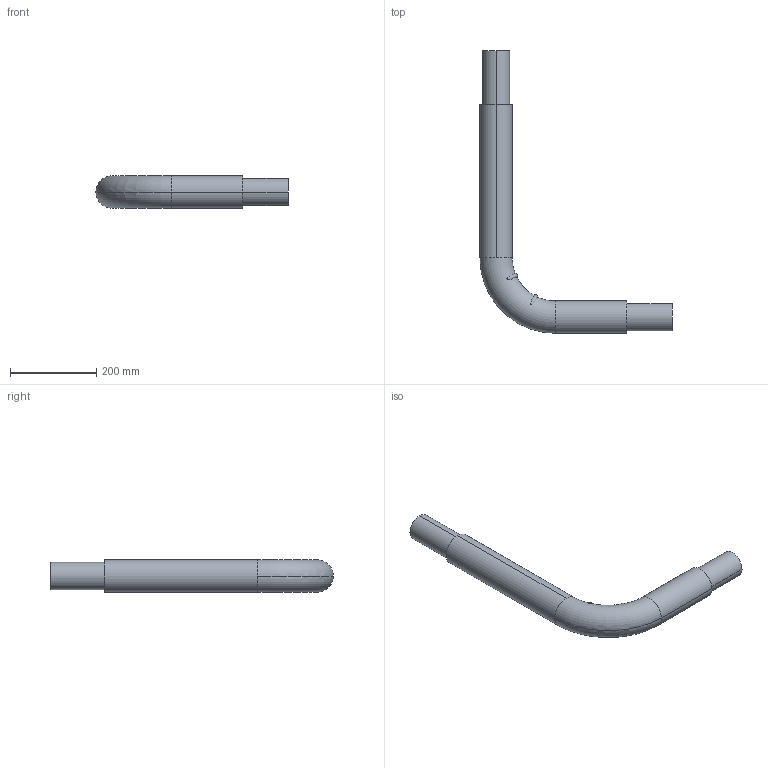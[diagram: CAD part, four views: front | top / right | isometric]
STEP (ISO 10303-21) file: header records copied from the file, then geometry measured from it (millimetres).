
FILE_DESCRIPTION (( 'STEP AP203' ), '1' );
FILE_NAME ('KP_3-75-63SC.step', '2011-08-08T11:40:12', ( '' ), ( '' ), 'SwSTEP 2.0', 'SolidWorks 2011', '' );
FILE_SCHEMA (( 'CONFIG_CONTROL_DESIGN' ));
Length unit declared in the file: millimetre
Products named in the file (1): KP_3-75-63SC
Bounding box: 446 x 656 x 75 mm (x, y, z)
Volume: 1770166.8 mm3; surface area: 664537.3 mm2
Topology: 1 solids, 1 shells, 34 faces, 86 edges, 54 vertices
Faces by surface type: cylinder 16, torus 10, plane 8
Entity records: 1528 total; most frequent: CARTESIAN_POINT 600, DIRECTION 198, ORIENTED_EDGE 172, AXIS2_PLACEMENT_3D 91, EDGE_CURVE 86, CIRCLE 56, VERTEX_POINT 54, EDGE_LOOP 38
